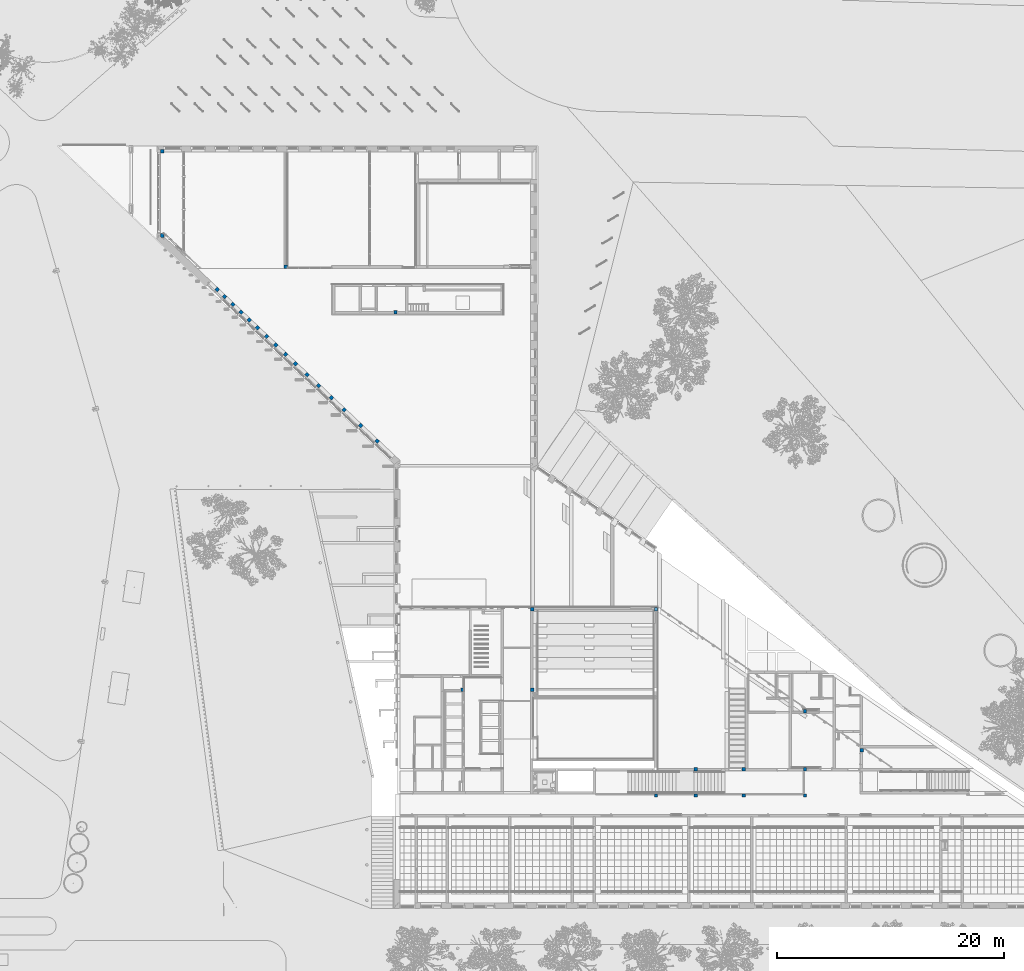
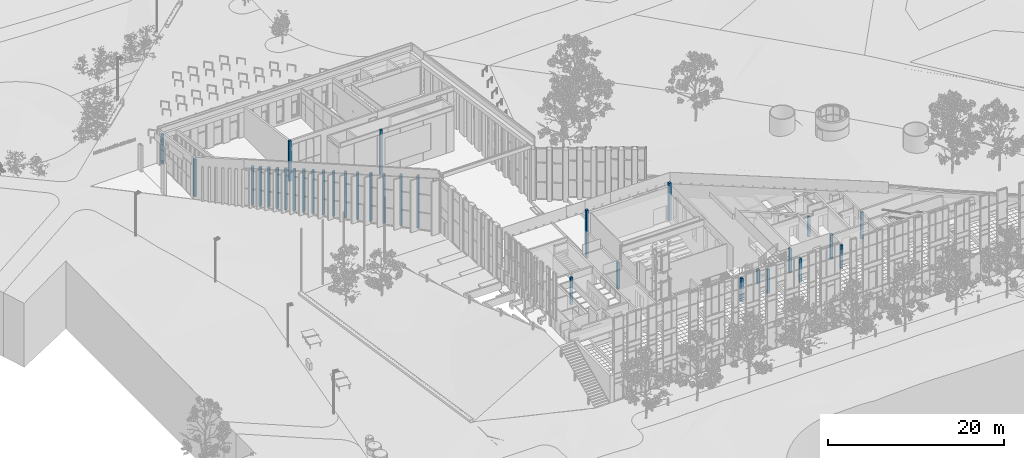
# One storey, part 57 of 246: 33 columns.
"""IFC2X3 building model written with IfcOpenShell, lengths in millimetres."""

from ifc_helpers import new_model, entity, si_unit, converted_unit, derived_unit, money_unit, direction, frame, origin_with_axes, place, context, subcontext, project, spatial, faceted_brep, material, type_object, element, save


model = new_model("IFC2X3")

# Units and contexts
model_context = context("Model", 3, precision=0.01, world=origin_with_axes(), true_north=direction((0.0, 1.0)))
body_context = subcontext(model_context, "Body", "Model", "MODEL_VIEW")
ifc_project = project(units=[si_unit("LENGTHUNIT", "METRE", prefix="MILLI"), si_unit("AREAUNIT", "SQUARE_METRE"), si_unit("VOLUMEUNIT", "CUBIC_METRE"), converted_unit("PLANEANGLEUNIT", "DEGREE", entity("IfcPlaneAngleMeasure", 0.0174532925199), si_unit("PLANEANGLEUNIT", "RADIAN"), dimensions=[0, 0, 0, 0, 0, 0, 0]), si_unit("SOLIDANGLEUNIT", "STERADIAN"), money_unit("EUR"), converted_unit("TIMEUNIT", "Year", entity("IfcTimeMeasure", 31556926.0), si_unit("TIMEUNIT", "SECOND"), dimensions=[0, 0, 1, 0, 0, 0, 0]), si_unit("MASSUNIT", "GRAM", prefix="KILO"), si_unit("THERMODYNAMICTEMPERATUREUNIT", "DEGREE_CELSIUS"), si_unit("LUMINOUSINTENSITYUNIT", "LUMEN"), si_unit("ENERGYUNIT", "JOULE", prefix="MEGA"), derived_unit("THERMALCONDUCTANCEUNIT", [(si_unit("POWERUNIT", "WATT"), 1), (si_unit("LENGTHUNIT", "METRE"), -1), (si_unit("THERMODYNAMICTEMPERATUREUNIT", "KELVIN"), -1)]), derived_unit("SPECIFICHEATCAPACITYUNIT", [(si_unit("ENERGYUNIT", "JOULE"), 1), (si_unit("MASSUNIT", "GRAM", prefix="KILO"), -1), (si_unit("THERMODYNAMICTEMPERATUREUNIT", "KELVIN"), -1)]), derived_unit("MASSDENSITYUNIT", [(si_unit("MASSUNIT", "GRAM", prefix="KILO"), 1), (si_unit("VOLUMEUNIT", "CUBIC_METRE"), -1)])], contexts=[model_context])

# Site, building, storey
site_placement = place(None, origin_with_axes())
site = spatial("IfcSite", under=ifc_project, at=site_placement, Name="L.Koidula tn 11b", CompositionType="ELEMENT")
building_placement = place(site_placement, origin_with_axes())
building = spatial("IfcBuilding", under=site, at=building_placement, Name="Rakvere Riigigümnaasium", CompositionType="ELEMENT")
storey_placement = place(building_placement, origin_with_axes())
storey = spatial("IfcBuildingStorey", under=building, at=storey_placement, Name="1.korrus 0,00", CompositionType="ELEMENT", Elevation=0.0)

# Columns
ifc_material_1 = material(Name="Betoon post")
column_type_1 = type_object("IfcColumnType", Name="Betoon post 300 x 300", PredefinedType="COLUMN")
column_1_placement = place(storey_placement, frame((61540.020931, 17260.4325141, 0.0), z_axis=(0.0, 0.0, 1.0), x_axis=(1.0, 0.0, 0.0)))
element("IfcColumn", 1, at=column_1_placement, inside=storey, type_object=column_type_1, material=ifc_material_1, Name="Post", ObjectType="COLUMN", context=body_context, shape_type="Brep", body=[
    faceted_brep([(-150.0, -150.0, 1880.0), (-150.0, -150.0, 0.0), (150.0, -150.0, 0.0), (150.0, -150.0, 1880.0), (-150.0, 150.0, 1880.0), (-150.0, 150.0, 0.0), (150.0, 150.0, 0.0), (150.0, 150.0, 1880.0)], [[[0, 1, 2, 3]], [[4, 5, 1, 0]], [[2, 1, 5, 6]], [[3, 2, 6, 7]], [[4, 0, 3, 7]], [[7, 6, 5, 4]]]),
])
column_2_placement = place(storey_placement, frame((65749.9980025, 17260.4555225, 0.0), z_axis=(0.0, 0.0, 1.0), x_axis=(1.0, 0.0, 0.0)))
element("IfcColumn", 2, at=column_2_placement, inside=storey, type_object=column_type_1, material=ifc_material_1, Name="Post", ObjectType="COLUMN", context=body_context, shape_type="Brep", body=[
    faceted_brep([(-150.0, -150.0, 3325.0), (-150.0, -150.0, 0.0), (150.0, -150.0, 0.0), (150.0, -150.0, 3325.0), (-150.0, 150.0, 3325.0), (-150.0, 150.0, 0.0), (150.0, 150.0, 0.0), (150.0, 150.0, 3325.0)], [[[0, 1, 2, 3]], [[4, 5, 1, 0]], [[2, 1, 5, 6]], [[3, 2, 6, 7]], [[4, 0, 3, 7]], [[7, 6, 5, 4]]]),
])
column_3_placement = place(storey_placement, frame((58030.0348819, 31350.4554945, 1394.82181515), z_axis=(0.0, 0.0, 1.0), x_axis=(1.0, 0.0, 0.0)))
element("IfcColumn", 3, at=column_3_placement, inside=storey, type_object=column_type_1, material=ifc_material_1, Name="Post", ObjectType="COLUMN", context=body_context, shape_type="Brep", body=[
    faceted_brep([(-150.0, -150.0, 5224.08525771), (-150.0, -150.0, 0.0), (150.0, -150.0, 0.0), (150.0, -150.0, 5224.08525771), (-150.0, 150.0, 5224.08525771), (-150.0, 150.0, 0.0), (150.0, 150.0, 0.0), (150.0, 150.0, 5224.08525771)], [[[0, 1, 2, 3]], [[4, 5, 1, 0]], [[2, 1, 5, 6]], [[3, 2, 6, 7]], [[4, 0, 3, 7]], [[7, 6, 5, 4]]]),
])
column_4_placement = place(storey_placement, frame((47150.0013931, 24250.4555472, 0.0), z_axis=(0.0, 0.0, 1.0), x_axis=(1.0, 0.0, 0.0)))
element("IfcColumn", 4, at=column_4_placement, inside=storey, type_object=column_type_1, material=ifc_material_1, Name="Post", ObjectType="COLUMN", context=body_context, shape_type="Brep", body=[
    faceted_brep([(-150.0, -150.0, 3720.0), (-150.0, -150.0, 0.0), (150.0, -150.0, 0.0), (150.0, -150.0, 3720.0), (-150.0, 150.0, 3720.0), (-150.0, 150.0, 0.0), (150.0, 150.0, 0.0), (150.0, 150.0, 3720.0)], [[[0, 1, 2, 3]], [[4, 5, 1, 0]], [[2, 1, 5, 6]], [[3, 2, 6, 7]], [[4, 0, 3, 7]], [[7, 6, 5, 4]]]),
])
column_5_placement = place(storey_placement, frame((14580.0344055, 71650.4519938, 0.0), z_axis=(0.0, 0.0, 1.0), x_axis=(1.0, 0.0, 0.0)))
element("IfcColumn", 5, at=column_5_placement, inside=storey, type_object=column_type_1, material=ifc_material_1, Name="Post", ObjectType="COLUMN", context=body_context, shape_type="Brep", body=[
    faceted_brep([(-150.000008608, 150.0, 4128.22237537), (150.0, 150.0, 4128.22237368), (150.0, 150.0, 0.0), (-150.0, 150.0, 0.0), (150.0, -150.0, 4170.91869639), (-150.00000858, -150.0, 4170.91869808), (150.0, -150.0, 0.0), (-150.0, -150.0, 0.0)], [[[0, 1, 2, 3]], [[4, 1, 0, 5]], [[1, 4, 6, 2]], [[7, 3, 2, 6]], [[5, 0, 3, 7]], [[4, 5, 7, 6]]]),
])
column_6_placement = place(storey_placement, frame((58030.0348101, 14950.4785254, 0.0), z_axis=(0.0, 0.0, 1.0), x_axis=(1.0, 0.0, 0.0)))
element("IfcColumn", 6, at=column_6_placement, inside=storey, type_object=column_type_1, material=ifc_material_1, Name="Post", ObjectType="COLUMN", context=body_context, shape_type="Brep", body=[
    faceted_brep([(-150.0, -150.0, 3325.0), (-150.0, -150.0, 0.0), (150.0, -150.0, 0.0), (150.0, -150.0, 3325.0), (-150.0, 150.0, 3325.0), (-150.0, 150.0, 0.0), (150.0, 150.0, 0.0), (150.0, 150.0, 3325.0)], [[[0, 1, 2, 3]], [[4, 5, 1, 0]], [[2, 1, 5, 6]], [[3, 2, 6, 7]], [[4, 0, 3, 7]], [[7, 6, 5, 4]]]),
])
column_7_placement = place(storey_placement, frame((47150.000063, 31350.4554945, 0.0), z_axis=(0.0, 0.0, 1.0), x_axis=(1.0, 0.0, 0.0)))
element("IfcColumn", 7, at=column_7_placement, inside=storey, type_object=column_type_1, material=ifc_material_1, Name="Post", ObjectType="COLUMN", context=body_context, shape_type="Brep", body=[
    faceted_brep([(-150.0, -150.0, 6665.0), (-150.0, -150.0, 0.0), (150.0, -150.0, 0.0), (150.0, -150.0, 6665.0), (-150.0, 150.0, 6665.0), (-150.0, 150.0, 0.0), (150.0, 150.0, 0.0), (150.0, 150.0, 6665.0)], [[[0, 1, 2, 3]], [[4, 5, 1, 0]], [[2, 1, 5, 6]], [[3, 2, 6, 7]], [[4, 0, 3, 7]], [[7, 6, 5, 4]]]),
])
for number, where, z_axis, x_axis, name in (
    (8, (65749.9980729, 14950.4785302, 0.0), (0.0, 0.0, 1.0), (1.0, 0.0, 0.0), "Post"),
    (9, (61540.0000003, 14950.4555218, 0.0), (0.0, 0.0, 1.0), (1.0, 0.0, 0.0), "Post"),
):
    element("IfcColumn", number, at=place(storey_placement, frame(where, z_axis=z_axis, x_axis=x_axis)), inside=storey, type_object=column_type_1, material=ifc_material_1, Name=name, ObjectType="COLUMN", context=body_context, shape_type="Brep", body=[
        faceted_brep([(-150.0, -150.0, 3325.0), (-150.0, -150.0, 0.0), (150.0, -150.0, 0.0), (150.0, -150.0, 3325.0), (-150.0, 150.0, 3325.0), (-150.0, 150.0, 0.0), (150.0, 150.0, 0.0), (150.0, 150.0, 3325.0)], [[[0, 1, 2, 3]], [[4, 5, 1, 0]], [[2, 1, 5, 6]], [[3, 2, 6, 7]], [[4, 0, 3, 7]], [[7, 6, 5, 4]]]),
    ])
for number, where, z_axis, x_axis, name in (
    (10, (76139.9798877, 18946.2350956, 0.0), (0.0, 0.0, 1.0), (1.0, 0.0, 0.0), "Post"),
    (11, (41000.0009821, 24250.4555472, 0.0), (0.0, 0.0, 1.0), (1.0, 0.0, 0.0), "Post"),
):
    element("IfcColumn", number, at=place(storey_placement, frame(where, z_axis=z_axis, x_axis=x_axis)), inside=storey, type_object=column_type_1, material=ifc_material_1, Name=name, ObjectType="COLUMN", context=body_context, shape_type="Brep", body=[
        faceted_brep([(-150.0, -150.0, 3720.0), (-150.0, -150.0, 0.0), (150.0, -150.0, 0.0), (150.0, -150.0, 3720.0), (-150.0, 150.0, 3720.0), (-150.0, 150.0, 0.0), (150.0, 150.0, 0.0), (150.0, 150.0, 3720.0)], [[[0, 1, 2, 3]], [[4, 5, 1, 0]], [[2, 1, 5, 6]], [[3, 2, 6, 7]], [[4, 0, 3, 7]], [[7, 6, 5, 4]]]),
    ])
column_8_placement = place(storey_placement, frame((32041.3572969, 47515.7256677, 0.0), z_axis=(0.0, 0.0, 1.0), x_axis=(0.68776733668, 0.725931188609, 0.0)))
element("IfcColumn", 12, at=column_8_placement, inside=storey, type_object=column_type_1, material=ifc_material_1, Name="Post", ObjectType="COLUMN", context=body_context, shape_type="Brep", body=[
    faceted_brep([(149.990438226, 150.000001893, 7019.06347387), (149.99168566, -149.999998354, 7048.64285125), (150.0, -150.0, 0.0), (150.0, 150.0, 0.0), (-150.0, -150.0, 7049.26374008), (-150.0, 150.0, 7019.68436016), (-150.0, -150.0, 0.0), (-150.0, 150.0, 0.0)], [[[0, 1, 2, 3]], [[4, 1, 0, 5]], [[1, 4, 6, 2]], [[7, 3, 2, 6]], [[5, 0, 3, 7]], [[4, 5, 7, 6]]]),
])
column_9_placement = place(storey_placement, frame((26306.509643, 52949.0209138, 0.0), z_axis=(0.0, 0.0, 1.0), x_axis=(0.68776733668, 0.725931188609, 0.0)))
element("IfcColumn", 13, at=column_9_placement, inside=storey, type_object=column_type_1, material=ifc_material_1, Name="Post", ObjectType="COLUMN", context=body_context, shape_type="Brep", body=[
    faceted_brep([(150.000010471, 150.0, 6240.14501991), (150.001257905, -149.999999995, 6269.72439726), (150.0, -150.0, 0.0), (150.0, 150.0, 0.0), (-150.0, -150.0, 6270.34530575), (-150.0, 150.0, 6240.76592582), (-150.0, -150.0, 0.0), (-150.0, 150.0, 0.0)], [[[0, 1, 2, 3]], [[4, 1, 0, 5]], [[1, 4, 6, 2]], [[7, 3, 2, 6]], [[5, 0, 3, 7]], [[4, 5, 7, 6]]]),
])
column_10_placement = place(storey_placement, frame((24564.2679254, 54599.6552759, 0.0), z_axis=(0.0, 0.0, 1.0), x_axis=(0.68776733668, 0.725931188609, 0.0)))
element("IfcColumn", 14, at=column_10_placement, inside=storey, type_object=column_type_1, material=ifc_material_1, Name="Post", ObjectType="COLUMN", context=body_context, shape_type="Brep", body=[
    faceted_brep([(150.000012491, 150.0, 6003.51000114), (150.001259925, -149.999999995, 6033.08937849), (150.0, -150.0, 0.0), (150.0, 150.0, 0.0), (-150.0, -150.0, 6033.71028698), (-150.0, 150.0, 6004.13090705), (-150.0, -150.0, 0.0), (-150.0, 150.0, 0.0)], [[[0, 1, 2, 3]], [[4, 1, 0, 5]], [[1, 4, 6, 2]], [[7, 3, 2, 6]], [[5, 0, 3, 7]], [[4, 5, 7, 6]]]),
])
column_11_placement = place(storey_placement, frame((22967.2130176, 56112.7367747, 0.0), z_axis=(0.0, 0.0, 1.0), x_axis=(0.68776733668, 0.725931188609, 0.0)))
element("IfcColumn", 15, at=column_11_placement, inside=storey, type_object=column_type_1, material=ifc_material_1, Name="Post", ObjectType="COLUMN", context=body_context, shape_type="Brep", body=[
    faceted_brep([(150.000014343, 150.0, 5786.59456726), (150.001261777, -149.999999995, 5816.1739446), (150.0, -150.0, 0.0), (150.0, 150.0, 0.0), (-150.0, -150.0, 5816.7948531), (-150.0, 150.0, 5787.21547317), (-150.0, -150.0, 0.0), (-150.0, 150.0, 0.0)], [[[0, 1, 2, 3]], [[4, 1, 0, 5]], [[1, 4, 6, 2]], [[7, 3, 2, 6]], [[5, 0, 3, 7]], [[4, 5, 7, 6]]]),
])
column_12_placement = place(storey_placement, frame((33493.2196741, 46140.1909943, 0.0), z_axis=(0.0, 0.0, 1.0), x_axis=(0.68776733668, 0.725931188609, 0.0)))
element("IfcColumn", 16, at=column_12_placement, inside=storey, type_object=column_type_1, material=ifc_material_1, Name="Post", ObjectType="COLUMN", context=body_context, shape_type="Brep", body=[
    faceted_brep([(149.998754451, 150.000000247, 7216.25932301), (150.000001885, -150.0, 7245.83870038), (150.0, -150.0, 0.0), (150.0, 150.0, 0.0), (-150.0, -150.0, 7246.45960627), (-150.0, 150.0, 7216.88022634), (-150.0, -150.0, 0.0), (-150.0, 150.0, 0.0)], [[[0, 1, 2, 3]], [[4, 1, 0, 5]], [[1, 4, 6, 2]], [[7, 3, 2, 6]], [[5, 0, 3, 7]], [[4, 5, 7, 6]]]),
])
column_13_placement = place(storey_placement, frame((30589.5149266, 48891.2184697, 0.0), z_axis=(0.0, 0.0, 1.0), x_axis=(0.68776733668, 0.725931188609, 0.0)))
element("IfcColumn", 17, at=column_13_placement, inside=storey, type_object=column_type_1, material=ifc_material_1, Name="Post", ObjectType="COLUMN", context=body_context, shape_type="Brep", body=[
    faceted_brep([(149.998757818, 150.000000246, 6821.87189646), (150.000005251, -150.0, 6851.45127383), (150.0, -150.0, 0.0), (150.0, 150.0, 0.0), (-150.0, -150.0, 6852.07217973), (-150.0, 150.0, 6822.4927998), (-150.0, -150.0, 0.0), (-150.0, 150.0, 0.0)], [[[0, 1, 2, 3]], [[4, 1, 0, 5]], [[1, 4, 6, 2]], [[7, 3, 2, 6]], [[5, 0, 3, 7]], [[4, 5, 7, 6]]]),
])
column_14_placement = place(storey_placement, frame((28339.1258622, 51023.2808484, 0.0), z_axis=(0.0, 0.0, 1.0), x_axis=(0.68776431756, 0.725934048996, 0.0)))
element("IfcColumn", 18, at=column_14_placement, inside=storey, type_object=column_type_1, material=ifc_material_1, Name="Post", ObjectType="COLUMN", context=body_context, shape_type="Brep", body=[
    faceted_brep([(150.000008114, 150.0, 6516.21920848), (150.000007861, -150.0, 6545.79858583), (150.0, -150.0, 0.0), (150.0, 150.0, 0.0), (-150.0, -150.0, 6546.41961475), (-150.0, 150.0, 6516.8402374), (-150.0, -150.0, 0.0), (-150.0, 150.0, 0.0)], [[[0, 1, 2, 3]], [[4, 1, 0, 5]], [[1, 4, 6, 2]], [[7, 3, 2, 6]], [[5, 0, 3, 7]], [[4, 5, 7, 6]]]),
])
column_15_placement = place(storey_placement, frame((21515.3449196, 57488.2654098, 0.0), z_axis=(0.0, 0.0, 1.0), x_axis=(0.68776733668, 0.725931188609, 0.0)))
element("IfcColumn", 19, at=column_15_placement, inside=storey, type_object=column_type_1, material=ifc_material_1, Name="Post", ObjectType="COLUMN", context=body_context, shape_type="Brep", body=[
    faceted_brep([(150.000016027, 150.0, 5589.39871828), (150.001263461, -149.999999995, 5618.97809563), (150.0, -150.0, 0.0), (150.0, 150.0, 0.0), (-150.0, -150.0, 5619.59900413), (-150.0, 150.0, 5590.0196242), (-150.0, -150.0, 0.0), (-150.0, 150.0, 0.0)], [[[0, 1, 2, 3]], [[4, 1, 0, 5]], [[1, 4, 6, 2]], [[7, 3, 2, 6]], [[5, 0, 3, 7]], [[4, 5, 7, 6]]]),
])
column_16_placement = place(storey_placement, frame((20063.4922258, 58863.7742944, 0.0), z_axis=(0.0, 0.0, 1.0), x_axis=(0.68776733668, 0.725931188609, 0.0)))
element("IfcColumn", 20, at=column_16_placement, inside=storey, type_object=column_type_1, material=ifc_material_1, Name="Post", ObjectType="COLUMN", context=body_context, shape_type="Brep", body=[
    faceted_brep([(150.00376077, 150.000000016, 5392.2053112), (150.005008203, -149.999999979, 5421.78468854), (150.0, -150.0, 0.0), (150.0, 150.0, 0.0), (-150.0, -150.0, 5422.4056048), (-150.0, 150.0, 5392.82622487), (-150.0, -150.0, 0.0), (-150.0, 150.0, 0.0)], [[[0, 1, 2, 3]], [[4, 1, 0, 5]], [[1, 4, 6, 2]], [[7, 3, 2, 6]], [[5, 0, 3, 7]], [[4, 5, 7, 6]]]),
])
for number, where, z_axis, x_axis, name in (
    (21, (71149.9980729, 14950.4785302, 0.0), (0.0, 0.0, 1.0), (1.0, 0.0, 0.0), "Post"),
    (22, (71149.9980729, 17260.4555225, 0.0), (0.0, 0.0, 1.0), (1.0, 0.0, 0.0), "Post"),
):
    element("IfcColumn", number, at=place(storey_placement, frame(where, z_axis=z_axis, x_axis=x_axis)), inside=storey, type_object=column_type_1, material=ifc_material_1, Name=name, ObjectType="COLUMN", context=body_context, shape_type="Brep", body=[
        faceted_brep([(-150.0, -150.0, 3325.0), (-150.0, -150.0, 0.0), (150.0, -150.0, 0.0), (150.0, -150.0, 3325.0), (-150.0, 150.0, 3325.0), (-150.0, 150.0, 0.0), (150.0, 150.0, 0.0), (150.0, 150.0, 3325.0)], [[[0, 1, 2, 3]], [[4, 5, 1, 0]], [[2, 1, 5, 6]], [[3, 2, 6, 7]], [[4, 0, 3, 7]], [[7, 6, 5, 4]]]),
    ])
column_17_placement = place(storey_placement, frame((29464.3169243, 49957.2529228, 0.0), z_axis=(0.0, 0.0, 1.0), x_axis=(0.68776733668, 0.725931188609, 0.0)))
element("IfcColumn", 23, at=column_17_placement, inside=storey, type_object=column_type_1, material=ifc_material_1, Name="Post", ObjectType="COLUMN", context=body_context, shape_type="Brep", body=[
    faceted_brep([(149.999088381, 150.00000018, 6669.04511352), (150.000335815, -149.999999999, 6698.62449089), (150.0, -150.0, 0.0), (150.0, 150.0, 0.0), (-150.0, -150.0, 6699.24539747), (-150.0, 150.0, 6669.66601754), (-150.0, -150.0, 0.0), (-150.0, 150.0, 0.0)], [[[0, 1, 2, 3]], [[4, 1, 0, 5]], [[1, 4, 6, 2]], [[7, 3, 2, 6]], [[5, 0, 3, 7]], [[4, 5, 7, 6]]]),
])
column_18_placement = place(storey_placement, frame((19410.1541561, 59482.7648974, 0.0), z_axis=(0.0, 0.0, 1.0), x_axis=(0.68776733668, 0.725931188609, 0.0)))
element("IfcColumn", 24, at=column_18_placement, inside=storey, type_object=column_type_1, material=ifc_material_1, Name="Post", ObjectType="COLUMN", context=body_context, shape_type="Brep", body=[
    faceted_brep([(150.000018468, 150.0, 5303.46717916), (150.001265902, -149.999999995, 5333.04655651), (150.0, -150.0, 0.0), (150.0, 150.0, 0.0), (-150.0, -150.0, 5333.66746501), (-150.0, 150.0, 5304.08808508), (-150.0, -150.0, 0.0), (-150.0, 150.0, 0.0)], [[[0, 1, 2, 3]], [[4, 1, 0, 5]], [[1, 4, 6, 2]], [[7, 3, 2, 6]], [[5, 0, 3, 7]], [[4, 5, 7, 6]]]),
])
column_19_placement = place(storey_placement, frame((27322.8173116, 51986.1508692, 0.0), z_axis=(0.0, 0.0, 1.0), x_axis=(0.68776733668, 0.725931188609, 0.0)))
element("IfcColumn", 25, at=column_19_placement, inside=storey, type_object=column_type_1, material=ifc_material_1, Name="Post", ObjectType="COLUMN", context=body_context, shape_type="Brep", body=[
    faceted_brep([(150.000009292, 150.0, 6378.1821142), (150.001256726, -149.999999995, 6407.76149154), (150.0, -150.0, 0.0), (150.0, 150.0, 0.0), (-150.0, -150.0, 6408.38240003), (-150.0, 150.0, 6378.8030201), (-150.0, -150.0, 0.0), (-150.0, 150.0, 0.0)], [[[0, 1, 2, 3]], [[4, 1, 0, 5]], [[1, 4, 6, 2]], [[7, 3, 2, 6]], [[5, 0, 3, 7]], [[4, 5, 7, 6]]]),
])
column_20_placement = place(storey_placement, frame((23765.7404721, 55356.1960247, 0.0), z_axis=(0.0, 0.0, 1.0), x_axis=(0.68776733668, 0.725931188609, 0.0)))
element("IfcColumn", 26, at=column_20_placement, inside=storey, type_object=column_type_1, material=ifc_material_1, Name="Post", ObjectType="COLUMN", context=body_context, shape_type="Brep", body=[
    faceted_brep([(150.000013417, 150.0, 5895.05228428), (150.001260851, -149.999999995, 5924.63166162), (150.0, -150.0, 0.0), (150.0, 150.0, 0.0), (-150.0, -150.0, 5925.25257012), (-150.0, 150.0, 5895.67319019), (-150.0, -150.0, 0.0), (-150.0, 150.0, 0.0)], [[[0, 1, 2, 3]], [[4, 1, 0, 5]], [[1, 4, 6, 2]], [[7, 3, 2, 6]], [[5, 0, 3, 7]], [[4, 5, 7, 6]]]),
])
column_21_placement = place(storey_placement, frame((22241.2789686, 56800.5010922, 0.0), z_axis=(0.0, 0.0, 1.0), x_axis=(0.68776733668, 0.725931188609, 0.0)))
element("IfcColumn", 27, at=column_21_placement, inside=storey, type_object=column_type_1, material=ifc_material_1, Name="Post", ObjectType="COLUMN", context=body_context, shape_type="Brep", body=[
    faceted_brep([(150.000015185, 150.0, 5687.99664277), (150.001262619, -149.999999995, 5717.57602012), (150.0, -150.0, 0.0), (150.0, 150.0, 0.0), (-150.0, -150.0, 5718.19692862), (-150.0, 150.0, 5688.61754869), (-150.0, -150.0, 0.0), (-150.0, 150.0, 0.0)], [[[0, 1, 2, 3]], [[4, 1, 0, 5]], [[1, 4, 6, 2]], [[7, 3, 2, 6]], [[5, 0, 3, 7]], [[4, 5, 7, 6]]]),
])
column_22_placement = place(storey_placement, frame((20789.4054359, 58176.023991, 0.0), z_axis=(0.0, 0.0, 1.0), x_axis=(0.68776733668, 0.725931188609, 0.0)))
element("IfcColumn", 28, at=column_22_placement, inside=storey, type_object=column_type_1, material=ifc_material_1, Name="Post", ObjectType="COLUMN", context=body_context, shape_type="Brep", body=[
    faceted_brep([(150.007918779, 150.000000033, 5490.8007938), (150.009166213, -149.999999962, 5520.38017114), (150.0, -150.0, 0.0), (150.0, 150.0, 0.0), (-150.0, -150.0, 5521.001096), (-150.0, 150.0, 5491.42171608), (-150.0, -150.0, 0.0), (-150.0, 150.0, 0.0)], [[[0, 1, 2, 3]], [[4, 1, 0, 5]], [[1, 4, 6, 2]], [[7, 3, 2, 6]], [[5, 0, 3, 7]], [[4, 5, 7, 6]]]),
])
column_23_placement = place(storey_placement, frame((25435.3887842, 53774.3380949, 0.0), z_axis=(0.0, 0.0, 1.0), x_axis=(0.68776733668, 0.725931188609, 0.0)))
element("IfcColumn", 29, at=column_23_placement, inside=storey, type_object=column_type_1, material=ifc_material_1, Name="Post", ObjectType="COLUMN", context=body_context, shape_type="Brep", body=[
    faceted_brep([(150.000011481, 150.0, 6121.82751053), (150.001258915, -149.999999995, 6151.40688787), (150.0, -150.0, 0.0), (150.0, 150.0, 0.0), (-150.0, -150.0, 6152.02779636), (-150.0, 150.0, 6122.44841643), (-150.0, -150.0, 0.0), (-150.0, 150.0, 0.0)], [[[0, 1, 2, 3]], [[4, 1, 0, 5]], [[1, 4, 6, 2]], [[7, 3, 2, 6]], [[5, 0, 3, 7]], [[4, 5, 7, 6]]]),
])
column_24_placement = place(storey_placement, frame((71149.9980729, 22368.7588788, 0.0), z_axis=(0.0, 0.0, 1.0), x_axis=(1.0, 0.0, 0.0)))
element("IfcColumn", 30, at=column_24_placement, inside=storey, type_object=column_type_1, material=ifc_material_1, Name="Post", ObjectType="COLUMN", context=body_context, shape_type="Brep", body=[
    faceted_brep([(-150.0, -150.0, 2810.0), (-150.0, -150.0, 0.0), (150.0, -150.0, 0.0), (150.0, -150.0, 2810.0), (-150.0, 150.0, 2810.0), (-150.0, 150.0, 0.0), (150.0, 150.0, 0.0), (150.0, 150.0, 2810.0)], [[[0, 1, 2, 3]], [[4, 5, 1, 0]], [[2, 1, 5, 6]], [[3, 2, 6, 7]], [[4, 0, 3, 7]], [[7, 6, 5, 4]]]),
])
column_type_2 = type_object("IfcColumnType", Name="Betoon post 300 x 355", PredefinedType="COLUMN")
column_25_placement = place(storey_placement, frame((14580.0344055, 64247.8443865, 0.0), z_axis=(0.0, 0.0, 1.0), x_axis=(1.0, 0.0, 0.0)))
element("IfcColumn", 31, at=column_25_placement, inside=storey, type_object=column_type_2, material=ifc_material_1, Name="Post", ObjectType="COLUMN", context=body_context, shape_type="Brep", body=[
    faceted_brep([(-150.000007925, 177.5, 5177.85562347), (150.0, 177.5, 5177.85562177), (150.0, 177.5, 0.0), (-150.0, 177.5, 0.0), (150.0, -177.5, 5228.37960365), (-150.000007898, -115.691173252, 5219.58290663), (-84.7608901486, -177.5, 5228.37960497), (150.0, -177.5, 0.0), (-84.7608901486, -177.5, 0.0), (-150.0, -115.691173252, 0.0)], [[[0, 1, 2, 3]], [[4, 1, 0, 5, 6]], [[1, 4, 7, 2]], [[3, 2, 7, 8, 9]], [[5, 0, 3, 9]], [[6, 5, 9, 8]], [[4, 6, 8, 7]]]),
])
ifc_material_2 = material(Name="Betoon")
column_type_3 = type_object("IfcColumnType", Name="Betoon 300 x 300", PredefinedType="COLUMN")
column_26_placement = place(storey_placement, frame((25449.9999003, 61490.4546496, 0.0), z_axis=(0.0, 0.0, 1.0), x_axis=(1.0, 0.0, 0.0)))
element("IfcColumn", 32, at=column_26_placement, inside=storey, type_object=column_type_3, material=ifc_material_2, Name="Post", ObjectType="COLUMN", context=body_context, shape_type="Brep", body=[
    faceted_brep([(-150.000004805, 150.0, 5574.20406511), (150.0, 150.0, 5574.20406341), (150.0, 150.0, 0.0), (-150.0, 150.0, 0.0), (150.0, 99.987891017, 5581.32184056), (-150.000004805, 99.987891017, 5581.32184226), (-150.0, -150.0, 5616.90038782), (150.0, -150.0, 5616.90038613), (150.0, -150.0, 0.0), (-150.0, -150.0, 0.0)], [[[0, 1, 2, 3]], [[4, 1, 0, 5, 6, 7]], [[1, 4, 7, 8, 2]], [[9, 3, 2, 8]], [[5, 0, 3, 9, 6]], [[8, 7, 6, 9]]]),
])
ifc_material_3 = material(Name="Betoon element / plaat")
column_type_4 = type_object("IfcColumnType", Name="Betoon element / plaat 300 x 300", PredefinedType="COLUMN")
column_27_placement = place(storey_placement, frame((35110.0, 57470.4546496, 0.0), z_axis=(0.0, 0.0, 1.0), x_axis=(1.0, 0.0, 0.0)))
element("IfcColumn", 33, at=column_27_placement, inside=storey, type_object=column_type_4, material=ifc_material_3, Name="Post", ObjectType="COLUMN", context=body_context, shape_type="Brep", body=[
    faceted_brep([(-150.0, 150.0, 6146.33473485), (-123.999952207, 149.999999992, 6146.33473471), (150.0, 150.0, 6146.33473322), (150.0, 150.0, 0.0), (-150.0, 150.0, 0.0), (-150.0, -150.0, 6189.03105757), (-123.999952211, -150.000000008, 6189.03105742), (150.0, -150.0, 6189.03105593), (150.0, -150.0, 0.0), (-150.0, -150.0, 0.0)], [[[0, 1, 2, 3, 4]], [[1, 0, 5, 6, 7, 2]], [[3, 2, 7, 8]], [[4, 3, 8, 9]], [[5, 0, 4, 9]], [[6, 5, 9, 8, 7]]]),
])

save(model, "model.ifc")
